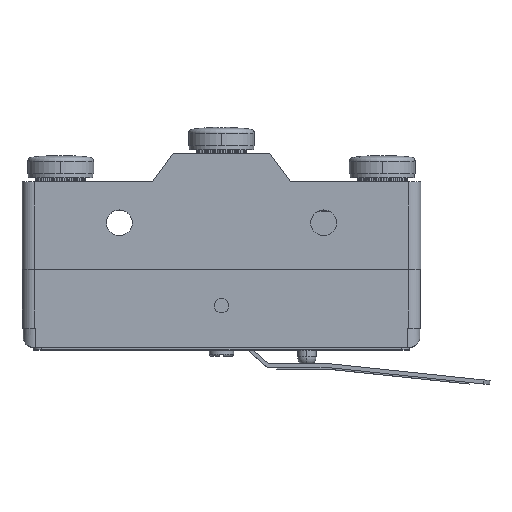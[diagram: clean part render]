
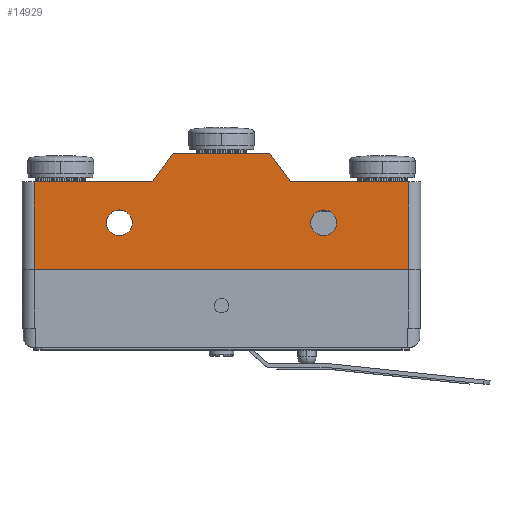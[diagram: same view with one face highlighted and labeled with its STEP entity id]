
A CAD part, top view. The second image highlights one B-rep face of the part: STEP entity #14929.
In plain terms, the highlighted planar face has unit normal (0, 0, 1).
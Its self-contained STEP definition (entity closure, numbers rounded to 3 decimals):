
#1941=DIRECTION('',(-1.,0.,0.));
#1942=VECTOR('',#1941,373.38);
#1943=CARTESIAN_POINT('',(1221.74,472.437,0.));
#1944=LINE('',#1943,#1942);
#2858=DIRECTION('',(0.,1.,0.));
#2859=VECTOR('',#2858,276.86);
#2860=CARTESIAN_POINT('',(1221.74,195.577,0.));
#2861=LINE('',#2860,#2859);
#2978=DIRECTION('',(0.,1.,0.));
#2979=VECTOR('',#2978,276.86);
#2980=CARTESIAN_POINT('',(38.1,195.577,0.));
#2981=LINE('',#2980,#2979);
#2982=DIRECTION('',(1.,0.,0.));
#2983=VECTOR('',#2982,373.38);
#2984=CARTESIAN_POINT('',(38.1,472.437,0.));
#2985=LINE('',#2984,#2983);
#2986=DIRECTION('',(0.596,0.803,0.));
#2987=VECTOR('',#2986,110.745);
#2988=CARTESIAN_POINT('',(411.48,472.437,0.));
#2989=LINE('',#2988,#2987);
#2990=DIRECTION('',(0.596,-0.803,0.));
#2991=VECTOR('',#2990,110.745);
#2992=CARTESIAN_POINT('',(782.32,561.337,0.));
#2993=LINE('',#2992,#2991);
#2994=DIRECTION('',(-1.,0.,0.));
#2995=VECTOR('',#2994,1183.64);
#2996=CARTESIAN_POINT('',(1221.74,195.577,0.));
#2997=LINE('',#2996,#2995);
#2998=CARTESIAN_POINT('',(307.34,342.897,0.));
#2999=DIRECTION('',(0.,0.,1.));
#3000=DIRECTION('',(1.,0.,0.));
#3001=AXIS2_PLACEMENT_3D('',#2998,#2999,#3000);
#3003=CARTESIAN_POINT('',(307.34,342.897,0.));
#3004=DIRECTION('',(0.,0.,1.));
#3005=DIRECTION('',(-1.,0.,0.));
#3006=AXIS2_PLACEMENT_3D('',#3003,#3004,#3005);
#3008=CARTESIAN_POINT('',(952.5,342.897,0.));
#3009=DIRECTION('',(0.,0.,1.));
#3010=DIRECTION('',(1.,0.,0.));
#3011=AXIS2_PLACEMENT_3D('',#3008,#3009,#3010);
#3013=CARTESIAN_POINT('',(952.5,342.897,0.));
#3014=DIRECTION('',(0.,0.,1.));
#3015=DIRECTION('',(-1.,0.,0.));
#3016=AXIS2_PLACEMENT_3D('',#3013,#3014,#3015);
#3940=DIRECTION('',(-1.,0.,0.));
#3941=VECTOR('',#3940,304.8);
#3942=CARTESIAN_POINT('',(782.32,561.337,0.));
#3943=LINE('',#3942,#3941);
#10735=CARTESIAN_POINT('',(411.48,472.437,0.));
#10737=VERTEX_POINT('',#10735);
#10739=CARTESIAN_POINT('',(38.1,472.437,0.));
#10741=VERTEX_POINT('',#10739);
#10768=CARTESIAN_POINT('',(38.1,195.577,0.));
#10770=VERTEX_POINT('',#10768);
#10771=CARTESIAN_POINT('',(1221.74,195.577,0.));
#10773=VERTEX_POINT('',#10771);
#10795=CARTESIAN_POINT('',(477.52,561.337,0.));
#10796=VERTEX_POINT('',#10795);
#10797=CARTESIAN_POINT('',(782.32,561.337,0.));
#10798=VERTEX_POINT('',#10797);
#10799=CARTESIAN_POINT('',(848.36,472.437,0.));
#10800=VERTEX_POINT('',#10799);
#10801=CARTESIAN_POINT('',(1221.74,472.437,0.));
#10802=VERTEX_POINT('',#10801);
#10803=CARTESIAN_POINT('',(347.98,342.897,0.));
#10804=CARTESIAN_POINT('',(266.7,342.897,0.));
#10805=VERTEX_POINT('',#10803);
#10806=VERTEX_POINT('',#10804);
#10807=CARTESIAN_POINT('',(993.14,342.897,0.));
#10808=CARTESIAN_POINT('',(911.86,342.897,0.));
#10809=VERTEX_POINT('',#10807);
#10810=VERTEX_POINT('',#10808);
#14899=CARTESIAN_POINT('',(629.92,378.457,0.));
#14900=DIRECTION('',(0.,0.,1.));
#14901=DIRECTION('',(1.,0.,0.));
#14902=AXIS2_PLACEMENT_3D('',#14899,#14900,#14901);
#14903=PLANE('',#14902);
#14904=ORIENTED_EDGE('',*,*,#14794,.T.);
#14906=ORIENTED_EDGE('',*,*,#14905,.T.);
#14908=ORIENTED_EDGE('',*,*,#14907,.T.);
#14910=ORIENTED_EDGE('',*,*,#14909,.F.);
#14911=ORIENTED_EDGE('',*,*,#14892,.T.);
#14912=ORIENTED_EDGE('',*,*,#14570,.F.);
#14913=ORIENTED_EDGE('',*,*,#14735,.F.);
#14914=ORIENTED_EDGE('',*,*,#14750,.T.);
#14915=EDGE_LOOP('',(#14904,#14906,#14908,#14910,#14911,#14912,#14913,#14914));
#14916=FACE_OUTER_BOUND('',#14915,.F.);
#14918=ORIENTED_EDGE('',*,*,#14917,.T.);
#14920=ORIENTED_EDGE('',*,*,#14919,.T.);
#14921=EDGE_LOOP('',(#14918,#14920));
#14922=FACE_BOUND('',#14921,.F.);
#14924=ORIENTED_EDGE('',*,*,#14923,.T.);
#14926=ORIENTED_EDGE('',*,*,#14925,.T.);
#14927=EDGE_LOOP('',(#14924,#14926));
#14928=FACE_BOUND('',#14927,.F.);
#14929=ADVANCED_FACE('',(#14916,#14922,#14928),#14903,.T.);
#3002=CIRCLE('',#3001,40.64);
#3007=CIRCLE('',#3006,40.64);
#3012=CIRCLE('',#3011,40.64);
#3017=CIRCLE('',#3016,40.64);
#14570=EDGE_CURVE('',#10802,#10800,#1944,.T.);
#14735=EDGE_CURVE('',#10773,#10802,#2861,.T.);
#14750=EDGE_CURVE('',#10773,#10770,#2997,.T.);
#14794=EDGE_CURVE('',#10770,#10741,#2981,.T.);
#14892=EDGE_CURVE('',#10798,#10800,#2993,.T.);
#14905=EDGE_CURVE('',#10741,#10737,#2985,.T.);
#14907=EDGE_CURVE('',#10737,#10796,#2989,.T.);
#14909=EDGE_CURVE('',#10798,#10796,#3943,.T.);
#14917=EDGE_CURVE('',#10805,#10806,#3002,.T.);
#14919=EDGE_CURVE('',#10806,#10805,#3007,.T.);
#14923=EDGE_CURVE('',#10809,#10810,#3012,.T.);
#14925=EDGE_CURVE('',#10810,#10809,#3017,.T.);
